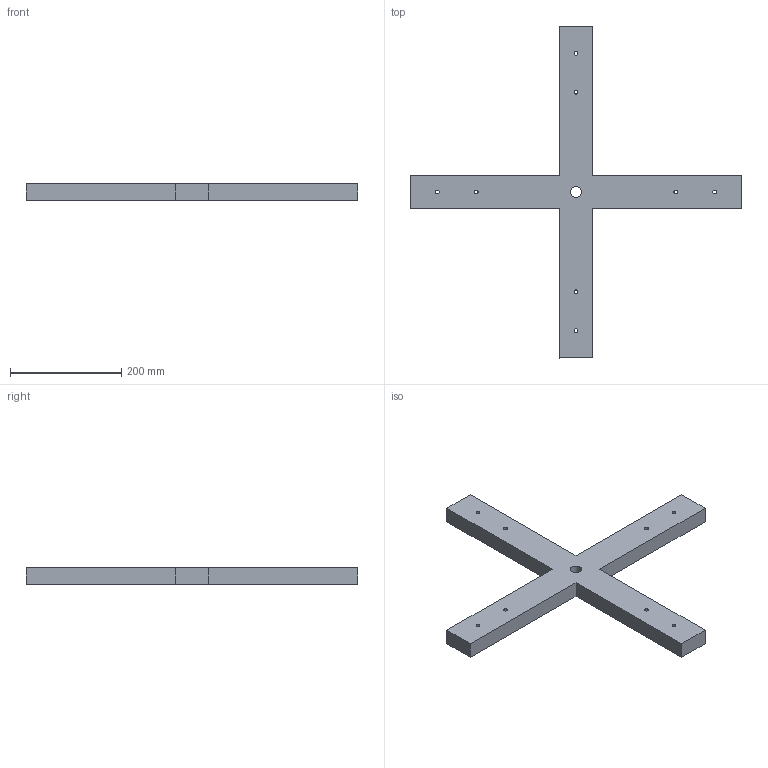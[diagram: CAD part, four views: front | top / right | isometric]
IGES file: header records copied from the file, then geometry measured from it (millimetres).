
Start section: Data from Parasolid IGES Translator 20.0.26, Copyright(c) 2006 Siemens P LM Software. All Rights Reserved.
Global section: file name: 48535.igs; native system: By Siemens PLM Incorporated; preprocessor: XPlus GENERIC/IGES 20.0.26; author: Noname; organization: Noname; date: 20210125.173650; units: millimetre
Bounding box: 598 x 598 x 30 mm (x, y, z)
Surface area: 213998.8 mm2 (no closed solid volume)
Topology: 0 solids, 0 shells, 23 faces, 126 edges, 118 vertices
Faces by surface type: extrusion 14, revolution 9
